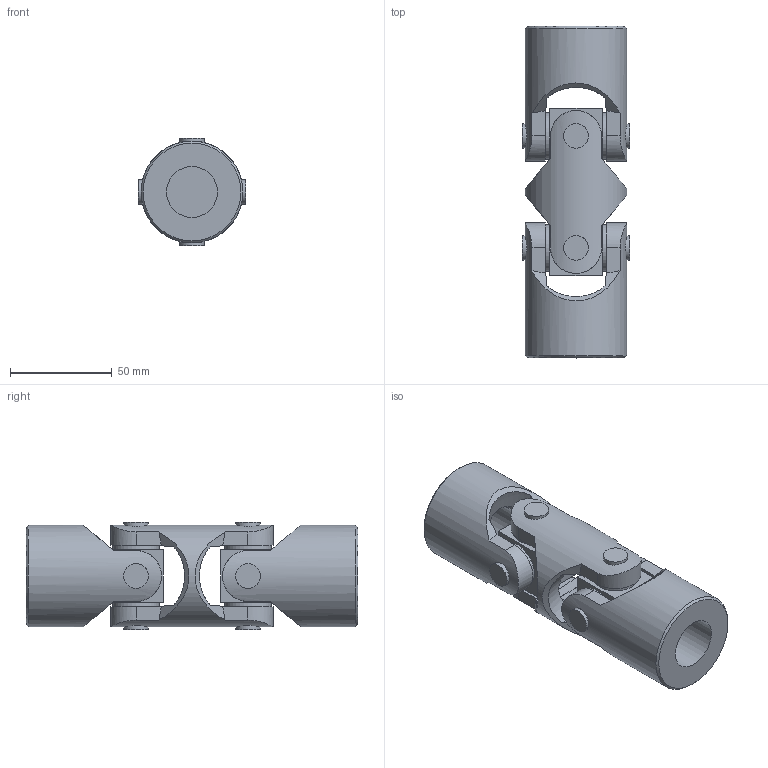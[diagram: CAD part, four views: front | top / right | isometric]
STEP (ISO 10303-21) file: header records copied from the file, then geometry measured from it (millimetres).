
FILE_DESCRIPTION(/* description */ (''),/* implementation_level */ '2;1');
FILE_NAME(/* name */ '\\SRV2016\Societa\Stefano\Disegni 3D\0Catalogo 3D\14Doppi XD\Ø50_5XD_SX0D2500.stp',/* time_stamp */ '2023-05-15T09:11:55+02:00',/* author */ ('acquisti'),/* organization */ (''),/* preprocessor_version */ 'ST-DEVELOPER v15.6',/* originating_system */ 'Autodesk Inventor 2015',/* authorisation */ '');
FILE_SCHEMA (('AUTOMOTIVE_DESIGN { 1 0 10303 214 3 1 1 }'));
Length unit declared in the file: millimetre
Products named in the file (4): 5X SFE; 5X MOD; 5X MOS; Ø50_5XD_SX0D2500
Assembly tree (5 placements, depth 2):
  Ø50_5XD_SX0D2500
    5X SFE  x2
    5X MOD
    5X MOS  x2
Bounding box: 52.76 x 163 x 52.76 mm (x, y, z)
Volume: 211093.6 mm3; surface area: 52093.9 mm2
Topology: 5 solids, 5 shells, 121 faces, 309 edges, 210 vertices
Faces by surface type: plane 62, cylinder 33, cone 22, torus 4
Full cylindrical faces by diameter (mm): 12 x8, 23 x8, 25 x2, 28 x4, 50 x3
Entity records: 3034 total; most frequent: CARTESIAN_POINT 1178, ORIENTED_EDGE 362, DIRECTION 346, EDGE_CURVE 181, AXIS2_PLACEMENT_3D 149, VERTEX_POINT 135, EDGE_LOOP 116, FACE_OUTER_BOUND 82
